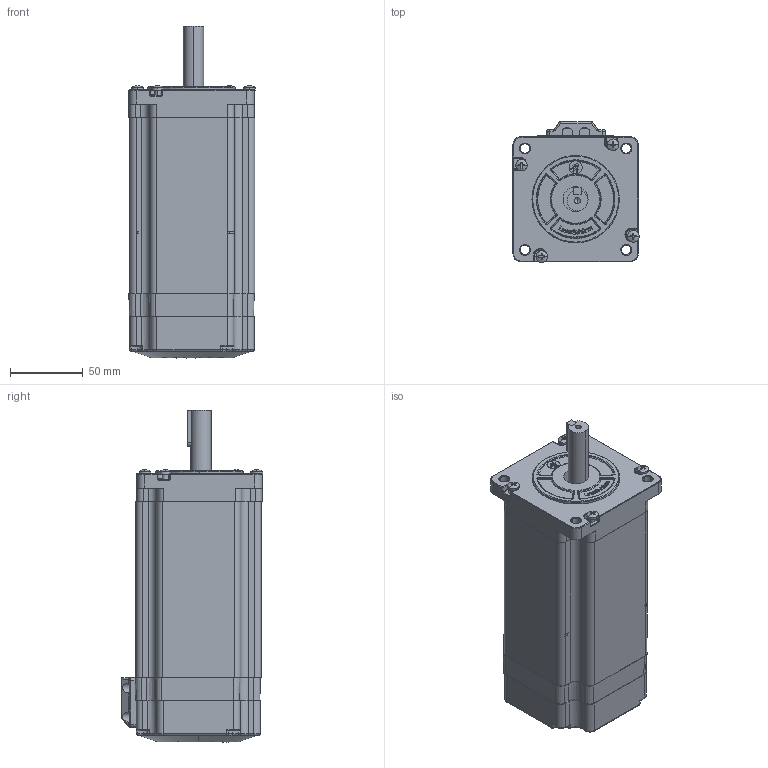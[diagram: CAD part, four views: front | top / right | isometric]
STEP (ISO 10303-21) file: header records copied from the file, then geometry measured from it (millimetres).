
FILE_DESCRIPTION (( 'STEP AP203' ), '1' );
FILE_NAME ('CS-M234120B_3D.STEP', '2019-12-23T01:20:43', ( 'hwtest' ), ( 'Microsoft' ), 'SwSTEP 2.0', 'SolidWorks 2014', '' );
FILE_SCHEMA (( 'CONFIG_CONTROL_DESIGN' ));
Length unit declared in the file: millimetre
Products named in the file (1): CS-M234120B_3D
Bounding box: 86.68 x 96.95 x 227.87 mm (x, y, z)
Volume: 927321.3 mm3; surface area: 166275.9 mm2
Topology: 25 solids, 25 shells, 1564 faces, 4116 edges, 2646 vertices
Faces by surface type: plane 646, cylinder 568, bspline 310, cone 40
Entity records: 58469 total; most frequent: CARTESIAN_POINT 21519, ORIENTED_EDGE 8188, DIRECTION 7015, EDGE_CURVE 4094, VERTEX_POINT 2646, AXIS2_PLACEMENT_3D 2434, LINE 2147, VECTOR 2147
